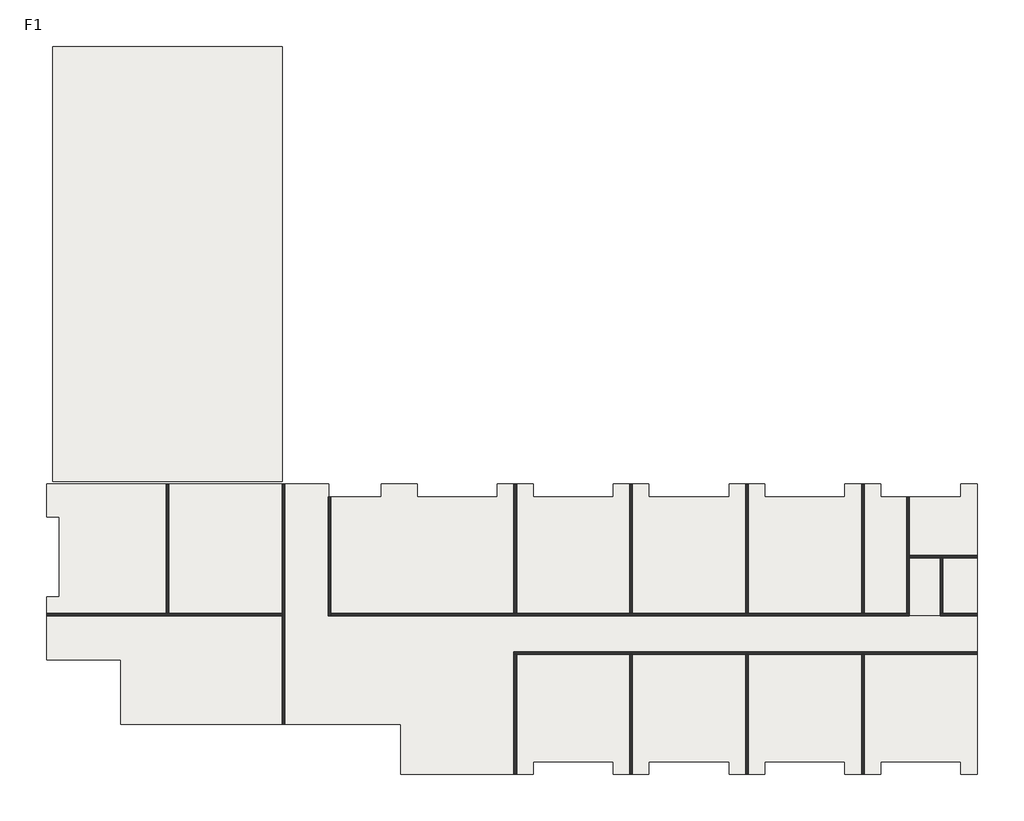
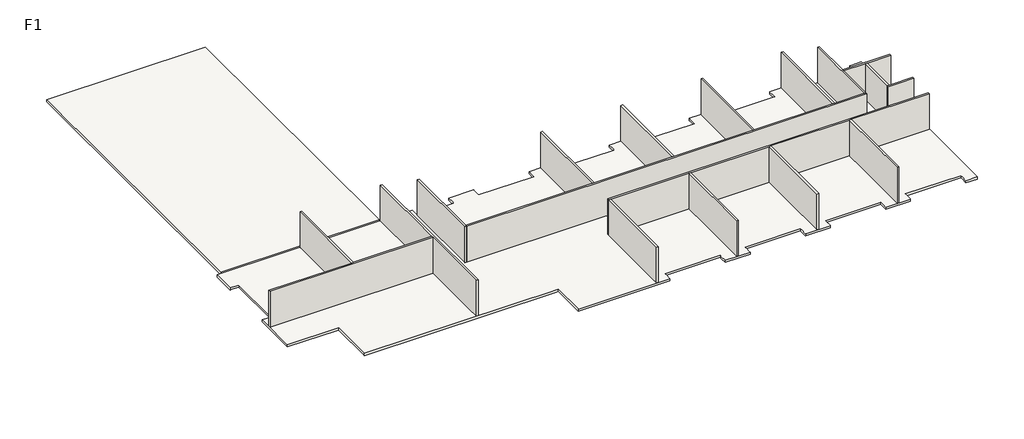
# One storey: 18 walls, 5 slabs.
"""IFC4 building model written with IfcOpenShell, lengths in millimetres."""

from ifc_helpers import new_model, si_unit, frame, origin, origin_with_axes, place, context, project, spatial, polyline, outline, extrude, faceted_brep, element, save

model = new_model("IFC4")

# Units and contexts
model_context = context("Model", 3, world=origin())
ifc_project = project(units=[si_unit("LENGTHUNIT", "METRE", prefix="MILLI")], contexts=[model_context])

# Site, building, storey
site = spatial("IfcSite", under=ifc_project)
building = spatial("IfcBuilding", under=site)
storey = spatial("IfcBuildingStorey", under=building, Name="F1", Elevation=0.0)

# Slabs
placement = place(None, origin())
element("IfcSlab", 1, ObjectType="綜合樓-15cm-室內", at=placement, inside=storey, context=model_context, shape_type="SweptSolid", body=[
    extrude(outline(polyline([(-12385.2182017, 23846.3343828), (-12385.2182017, -3206.7926211), (-26640.2182017, -3206.7926211), (-26640.2182017, 23846.3343828), (-12385.2182017, 23846.3343828)])), frame((0.0, 0.0, -150.0), z_axis=(0.0, 0.0, 1.0), x_axis=(1.0, 0.0, 0.0)), (0.0, 0.0, 1.0), 200.0),
])
element("IfcSlab", 2, ObjectType="綜合樓-15cm-室內", at=placement, inside=storey, context=model_context, shape_type="Brep", body=[
    faceted_brep([(-27040.2182017, -14306.7926211, -150.0), (-27040.2182017, -14286.7926211, -150.0), (-27040.2182017, -13881.7926211, -150.0), (-27040.2182017, -10371.7926211, -150.0), (-27020.2182017, -10371.7926211, -150.0), (-26440.2182017, -10371.7926211, -150.0), (-26250.2182017, -10371.7926211, -150.0), (-26250.2182017, -5391.7926211, -150.0), (-26440.2182017, -5391.7926211, -150.0), (-27020.2182017, -5391.7926211, -150.0), (-27040.2182017, -5391.7926211, -150.0), (-27040.2182017, -3356.7926211, -150.0), (-27020.2182017, -3356.7926211, -150.0), (-9505.2182017, -3356.7926211, -150.0), (-9505.2182017, -3376.7926211, -150.0), (-9505.2182017, -3956.7926211, -150.0), (-9505.2182017, -4146.7926211, -150.0), (-6225.2182017, -4146.7926211, -150.0), (-6225.2182017, -3956.7926211, -150.0), (-6225.2182017, -3376.7926211, -150.0), (-6225.2182017, -3356.7926211, -150.0), (-4005.2182017, -3356.7926211, -150.0), (-4005.2182017, -3376.7926211, -150.0), (-4005.2182017, -3956.7926211, -150.0), (-4005.2182017, -4146.7926211, -150.0), (974.7817983, -4146.7926211, -150.0), (974.7817983, -3956.7926211, -150.0), (974.7817983, -3376.7926211, -150.0), (974.7817983, -3356.7926211, -150.0), (3194.7817983, -3356.7926211, -150.0), (3194.7817983, -3376.7926211, -150.0), (3194.7817983, -3956.7926211, -150.0), (3194.7817983, -4146.7926211, -150.0), (8174.7817983, -4146.7926211, -150.0), (8174.7817983, -3956.7926211, -150.0), (8174.7817983, -3376.7926211, -150.0), (8174.7817983, -3356.7926211, -150.0), (10394.7817983, -3356.7926211, -150.0), (10394.7817983, -3376.7926211, -150.0), (10394.7817983, -3956.7926211, -150.0), (10394.7817983, -4146.7926211, -150.0), (15374.7817983, -4146.7926211, -150.0), (15374.7817983, -3956.7926211, -150.0), (15374.7817983, -3376.7926211, -150.0), (15374.7817983, -3356.7926211, -150.0), (17594.7817983, -3356.7926211, -150.0), (17594.7817983, -3376.7926211, -150.0), (17594.7817983, -3956.7926211, -150.0), (17594.7817983, -4146.7926211, -150.0), (22574.7817983, -4146.7926211, -150.0), (22574.7817983, -3956.7926211, -150.0), (22574.7817983, -3376.7926211, -150.0), (22574.7817983, -3356.7926211, -150.0), (24794.7817983, -3356.7926211, -150.0), (24794.7817983, -3376.7926211, -150.0), (24794.7817983, -3956.7926211, -150.0), (24794.7817983, -4146.7926211, -150.0), (26424.7817983, -4146.7926211, -150.0), (26424.7817983, -4166.7926211, -150.0), (26424.7817983, -11541.7926211, -150.0), (30789.7817983, -11541.7926211, -150.0), (30809.7817983, -11541.7926211, -150.0), (30809.7817983, -21406.7926211, -150.0), (30789.7817983, -21406.7926211, -150.0), (29774.7817983, -21406.7926211, -150.0), (29774.7817983, -21386.7926211, -150.0), (29774.7817983, -20806.7926211, -150.0), (29774.7817983, -20616.7926211, -150.0), (24794.7817983, -20616.7926211, -150.0), (24794.7817983, -20806.7926211, -150.0), (24794.7817983, -21386.7926211, -150.0), (24794.7817983, -21406.7926211, -150.0), (22574.7817983, -21406.7926211, -150.0), (22574.7817983, -21386.7926211, -150.0), (22574.7817983, -20806.7926211, -150.0), (22574.7817983, -20616.7926211, -150.0), (17594.7817983, -20616.7926211, -150.0), (17594.7817983, -20806.7926211, -150.0), (17594.7817983, -21386.7926211, -150.0), (17594.7817983, -21406.7926211, -150.0), (15374.7817983, -21406.7926211, -150.0), (15374.7817983, -21386.7926211, -150.0), (15374.7817983, -20806.7926211, -150.0), (15374.7817983, -20616.7926211, -150.0), (10394.7817983, -20616.7926211, -150.0), (10394.7817983, -20806.7926211, -150.0), (10394.7817983, -21386.7926211, -150.0), (10394.7817983, -21406.7926211, -150.0), (8174.7817983, -21406.7926211, -150.0), (8174.7817983, -21386.7926211, -150.0), (8174.7817983, -20806.7926211, -150.0), (8174.7817983, -20616.7926211, -150.0), (3194.7817983, -20616.7926211, -150.0), (3194.7817983, -20806.7926211, -150.0), (3194.7817983, -21386.7926211, -150.0), (3194.7817983, -21406.7926211, -150.0), (-5040.2182017, -21406.7926211, -150.0), (-5040.2182017, -21386.7926211, -150.0), (-5040.2182017, -18306.7926211, -150.0), (-5230.2182017, -18306.7926211, -150.0), (-22440.2182017, -18306.7926211, -150.0), (-22440.2182017, -18286.7926211, -150.0), (-22440.2182017, -14306.7926211, -150.0), (-22630.2182017, -14306.7926211, -150.0), (-27040.2182017, -14306.7926211, 50.0), (-22440.2182017, -14306.7926211, 50.0), (-22440.2182017, -18306.7926211, 50.0), (-5040.2182017, -18306.7926211, 50.0), (-5040.2182017, -21386.7926211, 50.0), (-5040.2182017, -21406.7926211, 50.0), (3194.7817983, -21406.7926211, 50.0), (3194.7817983, -21386.7926211, 50.0), (3194.7817983, -20806.7926211, 50.0), (3194.7817983, -20616.7926211, 50.0), (8174.7817983, -20616.7926211, 50.0), (8174.7817983, -20806.7926211, 50.0), (8174.7817983, -21386.7926211, 50.0), (8174.7817983, -21406.7926211, 50.0), (10394.7817983, -21406.7926211, 50.0), (10394.7817983, -21386.7926211, 50.0), (10394.7817983, -20806.7926211, 50.0), (10394.7817983, -20616.7926211, 50.0), (15374.7817983, -20616.7926211, 50.0), (15374.7817983, -20806.7926211, 50.0), (15374.7817983, -21386.7926211, 50.0), (15374.7817983, -21406.7926211, 50.0), (17594.7817983, -21406.7926211, 50.0), (17594.7817983, -21386.7926211, 50.0), (17594.7817983, -20806.7926211, 50.0), (17594.7817983, -20616.7926211, 50.0), (22574.7817983, -20616.7926211, 50.0), (22574.7817983, -20806.7926211, 50.0), (22574.7817983, -21386.7926211, 50.0), (22574.7817983, -21406.7926211, 50.0), (24794.7817983, -21406.7926211, 50.0), (24794.7817983, -21386.7926211, 50.0), (24794.7817983, -20806.7926211, 50.0), (24794.7817983, -20616.7926211, 50.0), (29774.7817983, -20616.7926211, 50.0), (29774.7817983, -20806.7926211, 50.0), (29774.7817983, -21386.7926211, 50.0), (29774.7817983, -21406.7926211, 50.0), (30789.7817983, -21406.7926211, 50.0), (30809.7817983, -21406.7926211, 50.0), (30809.7817983, -11541.7926211, 50.0), (30789.7817983, -11541.7926211, 50.0), (28504.7817983, -11541.7926211, 50.0), (26424.7817983, -11541.7926211, 50.0), (26424.7817983, -11401.7926211, 50.0), (26424.7817983, -4166.7926211, 50.0), (26424.7817983, -4146.7926211, 50.0), (24794.7817983, -4146.7926211, 50.0), (24794.7817983, -3956.7926211, 50.0), (24794.7817983, -3376.7926211, 50.0), (24794.7817983, -3356.7926211, 50.0), (22574.7817983, -3356.7926211, 50.0), (22574.7817983, -3376.7926211, 50.0), (22574.7817983, -3956.7926211, 50.0), (22574.7817983, -4146.7926211, 50.0), (17594.7817983, -4146.7926211, 50.0), (17594.7817983, -3956.7926211, 50.0), (17594.7817983, -3376.7926211, 50.0), (17594.7817983, -3356.7926211, 50.0), (15374.7817983, -3356.7926211, 50.0), (15374.7817983, -3376.7926211, 50.0), (15374.7817983, -3956.7926211, 50.0), (15374.7817983, -4146.7926211, 50.0), (10394.7817983, -4146.7926211, 50.0), (10394.7817983, -3956.7926211, 50.0), (10394.7817983, -3376.7926211, 50.0), (10394.7817983, -3356.7926211, 50.0), (8174.7817983, -3356.7926211, 50.0), (8174.7817983, -3376.7926211, 50.0), (8174.7817983, -3956.7926211, 50.0), (8174.7817983, -4146.7926211, 50.0), (3194.7817983, -4146.7926211, 50.0), (3194.7817983, -3956.7926211, 50.0), (3194.7817983, -3376.7926211, 50.0), (3194.7817983, -3356.7926211, 50.0), (974.7817983, -3356.7926211, 50.0), (974.7817983, -3376.7926211, 50.0), (974.7817983, -3956.7926211, 50.0), (974.7817983, -4146.7926211, 50.0), (-4005.2182017, -4146.7926211, 50.0), (-4005.2182017, -3956.7926211, 50.0), (-4005.2182017, -3376.7926211, 50.0), (-4005.2182017, -3356.7926211, 50.0), (-6225.2182017, -3356.7926211, 50.0), (-6225.2182017, -3376.7926211, 50.0), (-6225.2182017, -3956.7926211, 50.0), (-6225.2182017, -4146.7926211, 50.0), (-9505.2182017, -4146.7926211, 50.0), (-9505.2182017, -3956.7926211, 50.0), (-9505.2182017, -3376.7926211, 50.0), (-9505.2182017, -3356.7926211, 50.0), (-27020.2182017, -3356.7926211, 50.0), (-27040.2182017, -3356.7926211, 50.0), (-27040.2182017, -5391.7926211, 50.0), (-27020.2182017, -5391.7926211, 50.0), (-26440.2182017, -5391.7926211, 50.0), (-26250.2182017, -5391.7926211, 50.0), (-26250.2182017, -10371.7926211, 50.0), (-26440.2182017, -10371.7926211, 50.0), (-27020.2182017, -10371.7926211, 50.0), (-27040.2182017, -10371.7926211, 50.0), (-27040.2182017, -13881.7926211, 50.0), (-27040.2182017, -14306.7926211, 0.0), (-5040.2182017, -18306.7926211, 0.0), (-22440.2182017, -18306.7926211, 0.0), (-22440.2182017, -14306.7926211, 0.0)], [[[0, 1, 2, 3, 4, 5, 6, 7, 8, 9, 10, 11, 12, 13, 14, 15, 16, 17, 18, 19, 20, 21, 22, 23, 24, 25, 26, 27, 28, 29, 30, 31, 32, 33, 34, 35, 36, 37, 38, 39, 40, 41, 42, 43, 44, 45, 46, 47, 48, 49, 50, 51, 52, 53, 54, 55, 56, 57, 58, 59, 60, 61, 62, 63, 64, 65, 66, 67, 68, 69, 70, 71, 72, 73, 74, 75, 76, 77, 78, 79, 80, 81, 82, 83, 84, 85, 86, 87, 88, 89, 90, 91, 92, 93, 94, 95, 96, 97, 98, 99, 100, 101, 102, 103]], [[104, 105, 106, 107, 108, 109, 110, 111, 112, 113, 114, 115, 116, 117, 118, 119, 120, 121, 122, 123, 124, 125, 126, 127, 128, 129, 130, 131, 132, 133, 134, 135, 136, 137, 138, 139, 140, 141, 142, 143, 144, 145, 146, 147, 148, 149, 150, 151, 152, 153, 154, 155, 156, 157, 158, 159, 160, 161, 162, 163, 164, 165, 166, 167, 168, 169, 170, 171, 172, 173, 174, 175, 176, 177, 178, 179, 180, 181, 182, 183, 184, 185, 186, 187, 188, 189, 190, 191, 192, 193, 194, 195, 196, 197, 198, 199, 200, 201, 202, 203, 204, 205]], [[3, 2, 1, 0, 206, 104, 205, 204]], [[6, 5, 4, 3, 204, 203, 202, 201]], [[7, 6, 201, 200]], [[10, 9, 8, 7, 200, 199, 198, 197]], [[11, 10, 197, 196]], [[13, 12, 11, 196, 195, 194]], [[16, 15, 14, 13, 194, 193, 192, 191]], [[17, 16, 191, 190]], [[20, 19, 18, 17, 190, 189, 188, 187]], [[21, 20, 187, 186]], [[24, 23, 22, 21, 186, 185, 184, 183]], [[25, 24, 183, 182]], [[28, 27, 26, 25, 182, 181, 180, 179]], [[29, 28, 179, 178]], [[32, 31, 30, 29, 178, 177, 176, 175]], [[33, 32, 175, 174]], [[36, 35, 34, 33, 174, 173, 172, 171]], [[37, 36, 171, 170]], [[40, 39, 38, 37, 170, 169, 168, 167]], [[41, 40, 167, 166]], [[44, 43, 42, 41, 166, 165, 164, 163]], [[45, 44, 163, 162]], [[48, 47, 46, 45, 162, 161, 160, 159]], [[49, 48, 159, 158]], [[52, 51, 50, 49, 158, 157, 156, 155]], [[53, 52, 155, 154]], [[56, 55, 54, 53, 154, 153, 152, 151]], [[57, 56, 151, 150]], [[59, 58, 57, 150, 149, 148, 147]], [[61, 60, 59, 147, 146, 145, 144]], [[62, 61, 144, 143]], [[64, 63, 62, 143, 142, 141]], [[67, 66, 65, 64, 141, 140, 139, 138]], [[68, 67, 138, 137]], [[71, 70, 69, 68, 137, 136, 135, 134]], [[72, 71, 134, 133]], [[75, 74, 73, 72, 133, 132, 131, 130]], [[76, 75, 130, 129]], [[79, 78, 77, 76, 129, 128, 127, 126]], [[80, 79, 126, 125]], [[83, 82, 81, 80, 125, 124, 123, 122]], [[84, 83, 122, 121]], [[87, 86, 85, 84, 121, 120, 119, 118]], [[88, 87, 118, 117]], [[91, 90, 89, 88, 117, 116, 115, 114]], [[92, 91, 114, 113]], [[95, 94, 93, 92, 113, 112, 111, 110]], [[96, 95, 110, 109]], [[98, 97, 96, 109, 108, 107, 207]], [[100, 99, 98, 207, 107, 106, 208]], [[102, 101, 100, 208, 106, 105, 209]], [[0, 103, 102, 209, 105, 104, 206]]]),
])
element("IfcSlab", 3, ObjectType="洗手間地版", at=placement, inside=storey, context=model_context, shape_type="SweptSolid", body=[
    extrude(outline(polyline([(28524.7817983, -7941.0130428), (28524.7817983, -11541.0130428), (26544.7817983, -11541.0130428), (26544.7817983, -7941.0130428), (28524.7817983, -7941.0130428)])), frame((0.0, 0.0, -170.0), z_axis=(0.0, 0.0, 1.0), x_axis=(1.0, 0.0, 0.0)), (0.0, 0.0, 1.0), 200.0),
])
element("IfcSlab", 4, ObjectType="洗手間地版", at=placement, inside=storey, context=model_context, shape_type="Brep", body=[
    faceted_brep([(30809.7817983, -7941.7926211, -190.0), (30809.7817983, -11421.7926211, -190.0), (30789.7817983, -11421.7926211, -190.0), (28644.7817983, -11421.7926211, -190.0), (28644.7817983, -7941.7926211, -190.0), (30789.7817983, -7941.7926211, -190.0), (30809.7817983, -7941.7926211, 10.0), (30789.7817983, -7941.7926211, 10.0), (28644.7817983, -7941.7926211, 10.0), (28644.7817983, -7961.7926211, 10.0), (28644.7817983, -11401.7926211, 10.0), (28644.7817983, -11421.7926211, 10.0), (30789.7817983, -11421.7926211, 10.0), (30809.7817983, -11421.7926211, 10.0), (28644.7817983, -11421.7926211, 0.0), (28644.7817983, -7941.7926211, 0.0)], [[[0, 1, 2, 3, 4, 5]], [[6, 7, 8, 9, 10, 11, 12, 13]], [[1, 0, 6, 13]], [[3, 2, 1, 13, 12, 11, 14]], [[4, 3, 14, 11, 10, 9, 8, 15]], [[0, 5, 4, 15, 8, 7, 6]]]),
])
element("IfcSlab", 5, ObjectType="洗手間地版", at=placement, inside=storey, context=model_context, shape_type="Brep", body=[
    faceted_brep([(29774.7817983, -4146.7926211, -190.0), (29774.7817983, -3956.7926211, -190.0), (29774.7817983, -3356.7926211, -190.0), (29794.7817983, -3356.7926211, -190.0), (30809.7817983, -3356.7926211, -190.0), (30809.7817983, -3376.7926211, -190.0), (30809.7817983, -7821.7926211, -190.0), (30789.7817983, -7821.7926211, -190.0), (26544.7817983, -7821.7926211, -190.0), (26544.7817983, -4166.7926211, -190.0), (26544.7817983, -4146.7926211, -190.0), (29774.7817983, -4146.7926211, 10.0), (26544.7817983, -4146.7926211, 10.0), (26544.7817983, -4166.7926211, 10.0), (26544.7817983, -7821.7926211, 10.0), (26564.7817983, -7821.7926211, 10.0), (30789.7817983, -7821.7926211, 10.0), (30809.7817983, -7821.7926211, 10.0), (30809.7817983, -3376.7926211, 10.0), (30809.7817983, -3356.7926211, 10.0), (29794.7817983, -3356.7926211, 10.0), (29774.7817983, -3356.7926211, 10.0), (29774.7817983, -3956.7926211, 10.0), (26544.7817983, -7821.7926211, 0.0)], [[[0, 1, 2, 3, 4, 5, 6, 7, 8, 9, 10]], [[11, 12, 13, 14, 15, 16, 17, 18, 19, 20, 21, 22]], [[2, 1, 0, 11, 22, 21]], [[4, 3, 2, 21, 20, 19]], [[6, 5, 4, 19, 18, 17]], [[8, 7, 6, 17, 16, 15, 14, 23]], [[10, 9, 8, 23, 14, 13, 12]], [[0, 10, 12, 11]]]),
])

# Walls
element("IfcWall", 6, ObjectType="F1-12cm-內牆", at=placement, inside=storey, context=model_context, shape_type="SweptSolid", body=[
    extrude(outline(polyline([(-19595.2182017, -11401.7926211), (-19595.2182017, -3376.7926211), (-19435.2182017, -3376.7926211), (-19435.2182017, -11401.7926211), (-19595.2182017, -11401.7926211)])), origin_with_axes(), (0.0, 0.0, 1.0), 3450.0),
])
element("IfcWall", 7, ObjectType="F1-12cm-內牆", at=placement, inside=storey, context=model_context, shape_type="Brep", body=[
    faceted_brep([(-27020.2182017, -11561.7926211, 0.0), (-12385.2182017, -11561.7926211, 0.0), (-12385.2182017, -11561.7926211, 3450.0), (-27020.2182017, -11561.7926211, 3450.0), (-27020.2182017, -11401.7926211, 0.0), (-27020.2182017, -11401.7926211, 3450.0), (-19595.2182017, -11401.7926211, 3450.0), (-19435.2182017, -11401.7926211, 3450.0), (-12385.2182017, -11401.7926211, 3450.0), (-12385.2182017, -11401.7926211, 0.0), (-19435.2182017, -11401.7926211, 0.0), (-19595.2182017, -11401.7926211, 0.0)], [[[0, 1, 2, 3]], [[4, 5, 6, 7, 8, 9, 10, 11]], [[1, 0, 4, 11, 10, 9]], [[3, 2, 8, 7, 6, 5]], [[0, 3, 5, 4]], [[2, 1, 9, 8]]]),
])
element("IfcWall", 8, ObjectType="F1-12cm-內牆", at=placement, inside=storey, context=model_context, shape_type="SweptSolid", body=[
    extrude(outline(polyline([(23604.7817983, -11401.7926211), (23604.7817983, -3376.7926211), (23764.7817983, -3376.7926211), (23764.7817983, -11401.7926211), (23604.7817983, -11401.7926211)])), origin_with_axes(), (0.0, 0.0, 1.0), 3450.0),
])
element("IfcWall", 9, ObjectType="F1-12cm-內牆", at=placement, inside=storey, context=model_context, shape_type="SweptSolid", body=[
    extrude(outline(polyline([(16404.7817983, -11401.7926211), (16404.7817983, -3376.7926211), (16564.7817983, -3376.7926211), (16564.7817983, -11401.7926211), (16404.7817983, -11401.7926211)])), origin_with_axes(), (0.0, 0.0, 1.0), 3450.0),
])
element("IfcWall", 10, ObjectType="F1-12cm-內牆", at=placement, inside=storey, context=model_context, shape_type="SweptSolid", body=[
    extrude(outline(polyline([(9204.7817983, -11401.7926211), (9204.7817983, -3376.7926211), (9364.7817983, -3376.7926211), (9364.7817983, -11401.7926211), (9204.7817983, -11401.7926211)])), origin_with_axes(), (0.0, 0.0, 1.0), 3450.0),
])
element("IfcWall", 11, ObjectType="F1-12cm-內牆", at=placement, inside=storey, context=model_context, shape_type="SweptSolid", body=[
    extrude(outline(polyline([(2004.7817983, -11401.7926211), (2004.7817983, -3376.7926211), (2164.7817983, -3376.7926211), (2164.7817983, -11401.7926211), (2004.7817983, -11401.7926211)])), origin_with_axes(), (0.0, 0.0, 1.0), 3450.0),
])
element("IfcWall", 12, ObjectType="F1-12cm-內牆", at=placement, inside=storey, context=model_context, shape_type="Brep", body=[
    faceted_brep([(30789.7817983, -13801.7926211, 0.0), (2004.7817983, -13801.7926211, 0.0), (2004.7817983, -13801.7926211, 3450.0), (30789.7817983, -13801.7926211, 3450.0), (30789.7817983, -13961.7926211, 0.0), (30789.7817983, -13961.7926211, 3450.0), (23764.7817983, -13961.7926211, 3450.0), (23604.7817983, -13961.7926211, 3450.0), (16569.7817983, -13961.7926211, 3450.0), (16409.7817983, -13961.7926211, 3450.0), (9364.7817983, -13961.7926211, 3450.0), (9204.7817983, -13961.7926211, 3450.0), (2164.7817983, -13961.7926211, 3450.0), (2004.7817983, -13961.7926211, 3450.0), (2004.7817983, -13961.7926211, 0.0), (2164.7817983, -13961.7926211, 0.0), (9204.7817983, -13961.7926211, 0.0), (9364.7817983, -13961.7926211, 0.0), (16409.7817983, -13961.7926211, 0.0), (16569.7817983, -13961.7926211, 0.0), (23604.7817983, -13961.7926211, 0.0), (23764.7817983, -13961.7926211, 0.0)], [[[0, 1, 2, 3]], [[4, 5, 6, 7, 8, 9, 10, 11, 12, 13, 14, 15, 16, 17, 18, 19, 20, 21]], [[1, 0, 4, 21, 20, 19, 18, 17, 16, 15, 14]], [[3, 2, 13, 12, 11, 10, 9, 8, 7, 6, 5]], [[0, 3, 5, 4]], [[2, 1, 14, 13]]]),
])
element("IfcWall", 13, ObjectType="F1-12cm-內牆", at=placement, inside=storey, context=model_context, shape_type="SweptSolid", body=[
    extrude(outline(polyline([(2004.7817983, -21386.7926211), (2004.7817983, -13961.7926211), (2164.7817983, -13961.7926211), (2164.7817983, -21386.7926211), (2004.7817983, -21386.7926211)])), origin_with_axes(), (0.0, 0.0, 1.0), 3450.0),
])
element("IfcWall", 14, ObjectType="F1-12cm-內牆", at=placement, inside=storey, context=model_context, shape_type="SweptSolid", body=[
    extrude(outline(polyline([(9204.7817983, -21386.7926211), (9204.7817983, -13961.7926211), (9364.7817983, -13961.7926211), (9364.7817983, -21386.7926211), (9204.7817983, -21386.7926211)])), origin_with_axes(), (0.0, 0.0, 1.0), 3450.0),
])
element("IfcWall", 15, ObjectType="F1-12cm-內牆", at=placement, inside=storey, context=model_context, shape_type="SweptSolid", body=[
    extrude(outline(polyline([(16409.7817983, -21386.7926211), (16409.7817983, -13961.7926211), (16569.7817983, -13961.7926211), (16569.7817983, -21386.7926211), (16409.7817983, -21386.7926211)])), origin_with_axes(), (0.0, 0.0, 1.0), 3450.0),
])
element("IfcWall", 16, ObjectType="F1-12cm-內牆", at=placement, inside=storey, context=model_context, shape_type="SweptSolid", body=[
    extrude(outline(polyline([(23604.7817983, -21386.7926211), (23604.7817983, -13961.7926211), (23764.7817983, -13961.7926211), (23764.7817983, -21386.7926211), (23604.7817983, -21386.7926211)])), origin_with_axes(), (0.0, 0.0, 1.0), 3450.0),
])
element("IfcWall", 17, ObjectType="F1-12cm-內牆", at=placement, inside=storey, context=model_context, shape_type="Brep", body=[
    faceted_brep([(-12385.2182017, -3376.7926211, 0.0), (-12385.2182017, -11401.7926211, 0.0), (-12385.2182017, -11561.7926211, 0.0), (-12385.2182017, -18286.7926211, 0.0), (-12385.2182017, -18286.7926211, 3450.0), (-12385.2182017, -11561.7926211, 3450.0), (-12385.2182017, -11401.7926211, 3450.0), (-12385.2182017, -3376.7926211, 3450.0), (-12225.2182017, -3376.7926211, 0.0), (-12225.2182017, -3376.7926211, 3450.0), (-12225.2182017, -18286.7926211, 3450.0), (-12225.2182017, -18286.7926211, 0.0)], [[[0, 1, 2, 3, 4, 5, 6, 7]], [[8, 9, 10, 11]], [[3, 2, 1, 0, 8, 11]], [[4, 3, 11, 10]], [[7, 6, 5, 4, 10, 9]], [[0, 7, 9, 8]]]),
])
element("IfcWall", 18, ObjectType="F1-12cm-內牆", at=placement, inside=storey, context=model_context, shape_type="Brep", body=[
    faceted_brep([(-9525.2182017, -4166.7926211, 0.0), (-9525.2182017, -11561.7926211, 0.0), (-9525.2182017, -11561.7926211, 3450.0), (-9525.2182017, -4166.7926211, 3450.0), (-9365.2182017, -4166.7926211, 0.0), (-9365.2182017, -4166.7926211, 3450.0), (-9365.2182017, -11401.7926211, 3450.0), (-9365.2182017, -11561.7926211, 3450.0), (-9365.2182017, -11561.7926211, 0.0), (-9365.2182017, -11401.7926211, 0.0)], [[[0, 1, 2, 3]], [[4, 5, 6, 7, 8, 9]], [[1, 0, 4, 9, 8]], [[3, 2, 7, 6, 5]], [[2, 1, 8, 7]], [[0, 3, 5, 4]]]),
])
element("IfcWall", 19, ObjectType="F1-12cm-內牆", at=placement, inside=storey, context=model_context, shape_type="Brep", body=[
    faceted_brep([(-9365.2182017, -11561.7926211, 0.0), (26564.7817983, -11561.7926211, 0.0), (26564.7817983, -11561.7926211, 3450.0), (-9365.2182017, -11561.7926211, 3450.0), (-9365.2182017, -11401.7926211, 0.0), (-9365.2182017, -11401.7926211, 3450.0), (2004.7817983, -11401.7926211, 3450.0), (2164.7817983, -11401.7926211, 3450.0), (9204.7817983, -11401.7926211, 3450.0), (9364.7817983, -11401.7926211, 3450.0), (16404.7817983, -11401.7926211, 3450.0), (16564.7817983, -11401.7926211, 3450.0), (23604.7817983, -11401.7926211, 3450.0), (23764.7817983, -11401.7926211, 3450.0), (26404.7817983, -11401.7926211, 3450.0), (26564.7817983, -11401.7926211, 3450.0), (26564.7817983, -11401.7926211, 0.0), (26424.7817983, -11401.7926211, 0.0), (23764.7817983, -11401.7926211, 0.0), (23604.7817983, -11401.7926211, 0.0), (16564.7817983, -11401.7926211, 0.0), (16404.7817983, -11401.7926211, 0.0), (9364.7817983, -11401.7926211, 0.0), (9204.7817983, -11401.7926211, 0.0), (2164.7817983, -11401.7926211, 0.0), (2004.7817983, -11401.7926211, 0.0)], [[[0, 1, 2, 3]], [[4, 5, 6, 7, 8, 9, 10, 11, 12, 13, 14, 15, 16, 17, 18, 19, 20, 21, 22, 23, 24, 25]], [[1, 0, 4, 25, 24, 23, 22, 21, 20, 19, 18, 17, 16]], [[3, 2, 15, 14, 13, 12, 11, 10, 9, 8, 7, 6, 5]], [[0, 3, 5, 4]], [[2, 1, 16, 15]]]),
])
element("IfcWall", 20, ObjectType="F1-12cm-內牆", at=placement, inside=storey, context=model_context, shape_type="Brep", body=[
    faceted_brep([(26564.7817983, -4166.7926211, 3450.0), (26564.7817983, -7801.7926211, 3450.0), (26564.7817983, -7961.7926211, 3450.0), (26564.7817983, -11401.7926211, 3450.0), (26564.7817983, -11401.7926211, 0.0), (26564.7817983, -7961.7926211, 0.0), (26564.7817983, -7821.7926211, 0.0), (26564.7817983, -7821.7926211, 10.0), (26564.7817983, -7801.7926211, 10.0), (26564.7817983, -4166.7926211, 10.0), (26404.7817983, -11401.7926211, 3450.0), (26404.7817983, -4166.7926211, 3450.0), (26404.7817983, -4166.7926211, 50.0), (26404.7817983, -11401.7926211, 50.0), (26424.7817983, -11401.7926211, 0.0), (26424.7817983, -4166.7926211, 0.0), (26544.7817983, -4166.7926211, 0.0), (26544.7817983, -7821.7926211, 0.0), (26544.7817983, -4166.7926211, 10.0), (26424.7817983, -4166.7926211, 50.0), (26424.7817983, -11401.7926211, 50.0), (26544.7817983, -7821.7926211, 10.0)], [[[0, 1, 2, 3, 4, 5, 6, 7, 8, 9]], [[10, 11, 12, 13]], [[4, 14, 15, 16, 17, 6, 5]], [[3, 2, 1, 0, 11, 10]], [[11, 0, 9, 18, 16, 15, 19, 12]], [[4, 3, 10, 13, 20, 14]], [[19, 20, 13, 12]], [[20, 19, 15, 14]], [[7, 21, 18, 9, 8]], [[21, 7, 6, 17]], [[18, 21, 17, 16]]]),
])
element("IfcWall", 21, ObjectType="F1-12cm-內牆", at=placement, inside=storey, context=model_context, shape_type="Brep", body=[
    faceted_brep([(30789.7817983, -7961.7926211, 3450.0), (28664.7817983, -7961.7926211, 3450.0), (28504.7817983, -7961.7926211, 3450.0), (26564.7817983, -7961.7926211, 3450.0), (26564.7817983, -7961.7926211, 0.0), (28504.7817983, -7961.7926211, 0.0), (28644.7817983, -7961.7926211, 0.0), (28644.7817983, -7961.7926211, 10.0), (28664.7817983, -7961.7926211, 10.0), (30789.7817983, -7961.7926211, 10.0), (26564.7817983, -7801.7926211, 3450.0), (30789.7817983, -7801.7926211, 3450.0), (30789.7817983, -7801.7926211, 10.0), (26564.7817983, -7801.7926211, 10.0), (26564.7817983, -7821.7926211, 0.0), (30789.7817983, -7821.7926211, 0.0), (30789.7817983, -7941.7926211, 0.0), (28644.7817983, -7941.7926211, 0.0), (26564.7817983, -7821.7926211, 10.0), (30789.7817983, -7941.7926211, 10.0), (30789.7817983, -7821.7926211, 10.0), (28644.7817983, -7941.7926211, 10.0)], [[[0, 1, 2, 3, 4, 5, 6, 7, 8, 9]], [[10, 11, 12, 13]], [[6, 5, 4, 14, 15, 16, 17]], [[3, 2, 1, 0, 11, 10]], [[4, 3, 10, 13, 18, 14]], [[11, 0, 9, 19, 16, 15, 20, 12]], [[7, 21, 19, 9, 8]], [[21, 7, 6, 17]], [[19, 21, 17, 16]], [[20, 18, 13, 12]], [[18, 20, 15, 14]]]),
])
element("IfcWall", 22, ObjectType="F1-12cm-內牆", at=placement, inside=storey, context=model_context, shape_type="SweptSolid", body=[
    extrude(outline(polyline([(3450.0, 28504.7817983), (0.0, 28504.7817983), (0.0, 28644.7817983), (10.0, 28644.7817983), (10.0, 28664.7817983), (3450.0, 28664.7817983), (3450.0, 28504.7817983)])), frame((0.0, -11401.7926211, 0.0), z_axis=(0.0, 1.0, 0.0), x_axis=(0.0, 0.0, 1.0)), (0.0, 0.0, 1.0), 3440.0),
])
element("IfcWall", 23, ObjectType="F1-12cm-內牆", at=placement, inside=storey, context=model_context, shape_type="Brep", body=[
    faceted_brep([(30789.7817983, -11561.7926211, 3450.0), (28504.7817983, -11561.7926211, 3450.0), (28504.7817983, -11561.7926211, 50.0), (30789.7817983, -11561.7926211, 50.0), (28504.7817983, -11401.7926211, 3450.0), (28664.7817983, -11401.7926211, 3450.0), (30789.7817983, -11401.7926211, 3450.0), (30789.7817983, -11401.7926211, 10.0), (28664.7817983, -11401.7926211, 10.0), (28644.7817983, -11401.7926211, 10.0), (28644.7817983, -11401.7926211, 0.0), (28504.7817983, -11401.7926211, 0.0), (28504.7817983, -11541.7926211, 0.0), (28644.7817983, -11421.7926211, 0.0), (30789.7817983, -11421.7926211, 0.0), (30789.7817983, -11541.7926211, 0.0), (30789.7817983, -11541.7926211, 50.0), (30789.7817983, -11421.7926211, 10.0), (28504.7817983, -11541.7926211, 50.0), (28644.7817983, -11421.7926211, 10.0)], [[[0, 1, 2, 3]], [[4, 5, 6, 7, 8, 9, 10, 11]], [[12, 11, 10, 13, 14, 15]], [[1, 0, 6, 5, 4]], [[6, 0, 3, 16, 15, 14, 17, 7]], [[1, 4, 11, 12, 18, 2]], [[18, 16, 3, 2]], [[16, 18, 12, 15]], [[17, 19, 9, 8, 7]], [[19, 17, 14, 13]], [[9, 19, 13, 10]]]),
])

save(model, "model.ifc")
